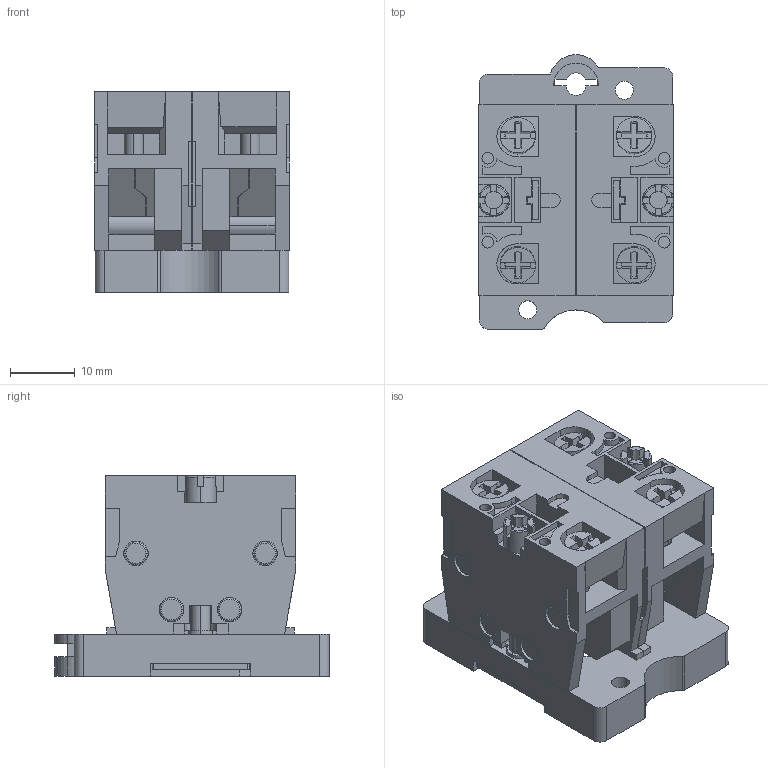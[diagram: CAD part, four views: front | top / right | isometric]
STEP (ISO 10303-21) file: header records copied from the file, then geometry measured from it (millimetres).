
FILE_DESCRIPTION (( 'STEP AP214' ), '1' );
FILE_NAME ('3D 斁麧錪 MTB2-EZ14.STEP', '2017-07-13T09:19:58', ( '' ), ( '' ), 'SwSTEP 2.0', 'SolidWorks 2011', '' );
FILE_SCHEMA (( 'AUTOMOTIVE_DESIGN' ));
Length unit declared in the file: millimetre
Products named in the file (4): Îñíîâàíèå êíîïêè_ïëàñòèêîâàÿ ñåðèÿ; 3D 斁麧錪 MTB2-EZ14; ﾇ琥韲 蓁 ﾁ-ﾊ; MTB2-BE áëîê-êîíòàêò
Assembly tree (5 placements, depth 2):
  3D 斁麧錪 MTB2-EZ14
    Îñíîâàíèå êíîïêè_ïëàñòèêîâàÿ ñåðèÿ
    MTB2-BE áëîê-êîíòàêò  x2
    ﾇ琥韲 蓁 ﾁ-ﾊ  x2
Bounding box: 30.3 x 42.5 x 31 mm (x, y, z)
Volume: 20708 mm3; surface area: 15833.3 mm2
Topology: 7 solids, 7 shells, 935 faces, 2510 edges, 1644 vertices
Faces by surface type: plane 644, cylinder 233, torus 32, cone 24, bspline 2
Entity records: 17746 total; most frequent: CARTESIAN_POINT 3163, ORIENTED_EDGE 2954, DIRECTION 2877, EDGE_CURVE 1477, VECTOR 1079, LINE 1079, VERTEX_POINT 970, AXIS2_PLACEMENT_3D 899
